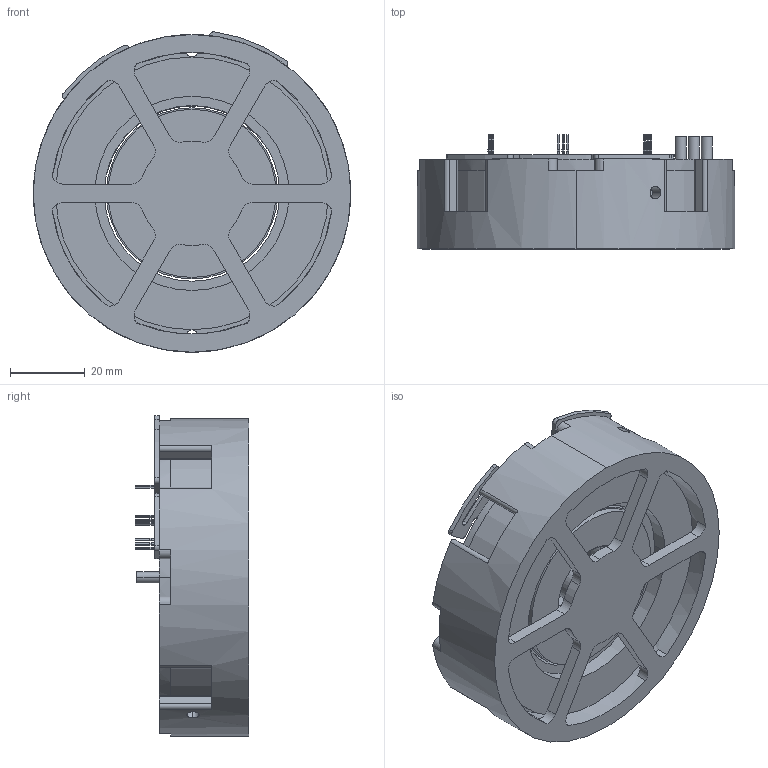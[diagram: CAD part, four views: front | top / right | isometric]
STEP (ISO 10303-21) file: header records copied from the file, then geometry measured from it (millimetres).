
FILE_DESCRIPTION(/* description */ (''),/* implementation_level */ '2;1');
FILE_NAME(/* name */ 'ri70加霍尔测试内转子.stp',/* time_stamp */ '2022-10-19T10:03:08+08:00',/* author */ (''),/* organization */ (''),/* preprocessor_version */ 'ST-DEVELOPER v16.7',/* originating_system */ 'SIEMENS PLM Software NX 12.0',/* authorisation */ '');
FILE_SCHEMA (('AUTOMOTIVE_DESIGN { 1 0 10303 214 3 1 1 1 }'));
Length unit declared in the file: millimetre
Products named in the file (67): OPEN_CASCADE_STEP_TRANSLA-32277981; OPEN_CASCADE_STEP_TRANSLA-30832982; OPEN_CASCADE_STEP_TRANSLA-29387983; OPEN_CASCADE_STEP_TRANSLA-28288984; OPEN_CASCADE_STEP_TRANSLA-27268985; OPEN_CASCADE_STEP_TRANSLA-26271986; OPEN_CASCADE_STEP_TRANSLA-25525987; OPEN_CASCADE_STEP_TRANSLA-24505988; OPEN_CASCADE_STEP_TRANSLA-23508989; OPEN_CASCADE_STEP_TRANSLA-22762990; OPEN_CASCADE_STEP_TRANSLA-21742991; OPEN_CASCADE_STEP_TRANSLA-20745992; MARK-32949993; MID_BODY-31911994; MARK-31504995; MID_BODY-30466996; MARK-30059997; MID_BODY-29021998; USER_LIBRARY-UA_SIP_MODEL_16999; USER_LIBRARY-UA_SIP_MODEL_151000; USER_LIBRARY-UA_SIP_MODEL_141001; USER_LIBRARY-UA_SIP_MODEL_131002; USER_LIBRARY-UA_SIP_MODEL_121003; USER_LIBRARY-UA_SIP_MODEL_111004; USER_LIBRARY-UA_SIP_MODEL_101005; USER_LIBRARY-UA_SIP_MODEL_91006; USER_LIBRARY-UA_SIP_MODEL_81007; USER_LIBRARY-UA_SIP_MODEL_71008; USER_LIBRARY-UA_SIP_MODEL_61009; USER_LIBRARY-UA_SIP_MODEL_51010; USER_LIBRARY-UA_SIP_MODEL_41011; USER_LIBRARY-UA_SIP_MODEL_31012; USER_LIBRARY-UA_SIP_MODEL_21013; USER_LIBRARY-UA_SIP_MODEL_11014; BOARD1015; 1; RI70001017; 700018151018; 70001019; TERMINAL-32267_ASM1020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
Assembly tree (71 placements, depth 7):
  2
    70001019
    700018151018
    RI70001017
    1
    RI70_HALL_ASM1046
      PCB_ASM1045
        BOARD1015
        Q1_ASM1044
          USER_LIBRARY-UA_SIP_MODEL_ASM1041
            USER_LIBRARY-UA_SIP_MODEL_11014
            USER_LIBRARY-UA_SIP_MODEL_21013
            USER_LIBRARY-UA_SIP_MODEL_31012
            USER_LIBRARY-UA_SIP_MODEL_41011
            USER_LIBRARY-UA_SIP_MODEL_51010
            USER_LIBRARY-UA_SIP_MODEL_61009
            USER_LIBRARY-UA_SIP_MODEL_71008
            USER_LIBRARY-UA_SIP_MODEL_81007
            USER_LIBRARY-UA_SIP_MODEL_91006
            USER_LIBRARY-UA_SIP_MODEL_101005
            USER_LIBRARY-UA_SIP_MODEL_111004
            USER_LIBRARY-UA_SIP_MODEL_121003
            USER_LIBRARY-UA_SIP_MODEL_131002
            USER_LIBRARY-UA_SIP_MODEL_141001
            USER_LIBRARY-UA_SIP_MODEL_151000
            USER_LIBRARY-UA_SIP_MODEL_16999
        Q3_ASM1043
          USER_LIBRARY-UA_SIP_MODEL_ASM1041
            USER_LIBRARY-UA_SIP_MODEL_11014
            USER_LIBRARY-UA_SIP_MODEL_21013
            USER_LIBRARY-UA_SIP_MODEL_31012
            USER_LIBRARY-UA_SIP_MODEL_41011
            USER_LIBRARY-UA_SIP_MODEL_51010
            USER_LIBRARY-UA_SIP_MODEL_61009
            USER_LIBRARY-UA_SIP_MODEL_71008
            USER_LIBRARY-UA_SIP_MODEL_81007
            USER_LIBRARY-UA_SIP_MODEL_91006
            USER_LIBRARY-UA_SIP_MODEL_101005
            USER_LIBRARY-UA_SIP_MODEL_111004
            USER_LIBRARY-UA_SIP_MODEL_121003
            USER_LIBRARY-UA_SIP_MODEL_131002
            USER_LIBRARY-UA_SIP_MODEL_141001
            USER_LIBRARY-UA_SIP_MODEL_151000
            USER_LIBRARY-UA_SIP_MODEL_16999
        Q2_ASM1042
          USER_LIBRARY-UA_SIP_MODEL_ASM1041
            USER_LIBRARY-UA_SIP_MODEL_11014
            USER_LIBRARY-UA_SIP_MODEL_21013
            USER_LIBRARY-UA_SIP_MODEL_31012
            USER_LIBRARY-UA_SIP_MODEL_41011
            USER_LIBRARY-UA_SIP_MODEL_51010
            USER_LIBRARY-UA_SIP_MODEL_61009
            USER_LIBRARY-UA_SIP_MODEL_71008
            USER_LIBRARY-UA_SIP_MODEL_81007
            USER_LIBRARY-UA_SIP_MODEL_91006
            USER_LIBRARY-UA_SIP_MODEL_101005
            USER_LIBRARY-UA_SIP_MODEL_111004
            USER_LIBRARY-UA_SIP_MODEL_121003
            USER_LIBRARY-UA_SIP_MODEL_131002
            USER_LIBRARY-UA_SIP_MODEL_141001
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Bounding box: 85 x 30.5 x 85.73 mm (x, y, z)
Volume: 101964.2 mm3; surface area: 44932.4 mm2
Topology: 74 solids, 74 shells, 1090 faces, 2668 edges, 1686 vertices
Faces by surface type: plane 584, cylinder 333, extrusion 90, cone 41, sphere 36, torus 6
Full cylindrical faces by diameter (mm): 0.103 x1
Entity records: 24518 total; most frequent: CARTESIAN_POINT 4923, DIRECTION 4011, ORIENTED_EDGE 3628, EDGE_CURVE 1814, AXIS2_PLACEMENT_3D 1475, VERTEX_POINT 1166, VECTOR 1061, LINE 1031
